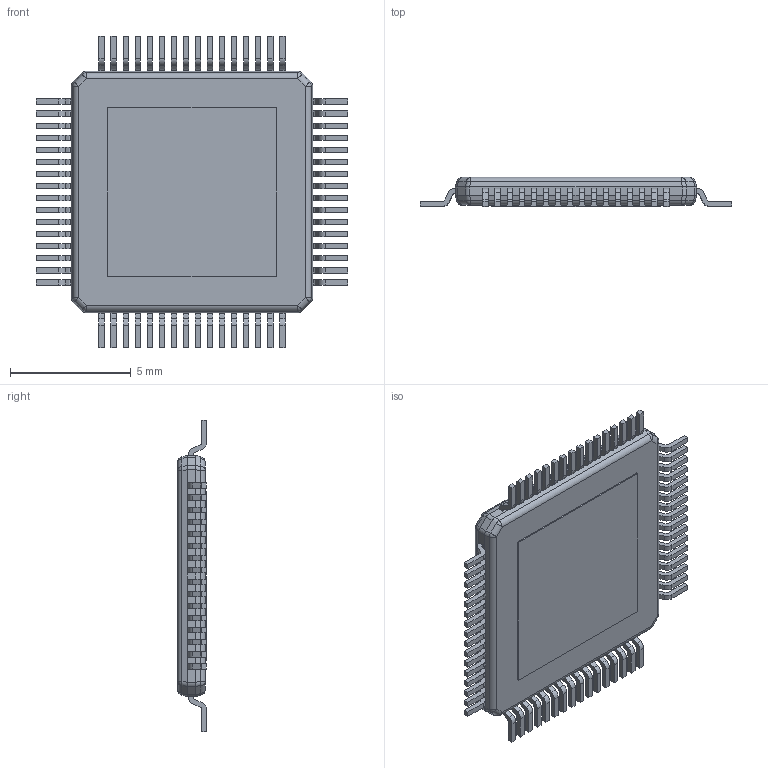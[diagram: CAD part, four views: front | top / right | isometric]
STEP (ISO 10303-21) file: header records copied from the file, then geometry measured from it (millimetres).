
FILE_DESCRIPTION (( 'STEP AP214' ), '1' );
FILE_NAME ( 'QFP50P1290X1290X120-65L25T700X700.STEP', '2014-04-11T12:31:21', ( '' ), ( '' ), 'FPX Expert 2013', 'PCB Libraries', '' );
FILE_SCHEMA (( 'AUTOMOTIVE_DESIGN' ));
Length unit declared in the file: millimetre
Products named in the file (1): QFP50P1290X1290X120-65L25T700X700
Bounding box: 12.9 x 1.2 x 12.9 mm (x, y, z)
Volume: 119.5 mm3; surface area: 442.1 mm2
Topology: 66 solids, 66 shells, 994 faces, 2546 edges, 1670 vertices
Faces by surface type: plane 678, cylinder 298, sphere 16, torus 2
Entity records: 33375 total; most frequent: CARTESIAN_POINT 5339, ORIENTED_EDGE 5060, DIRECTION 5040, EDGE_CURVE 2530, VECTOR 1914, LINE 1914, VERTEX_POINT 1670, AXIS2_PLACEMENT_3D 1563
